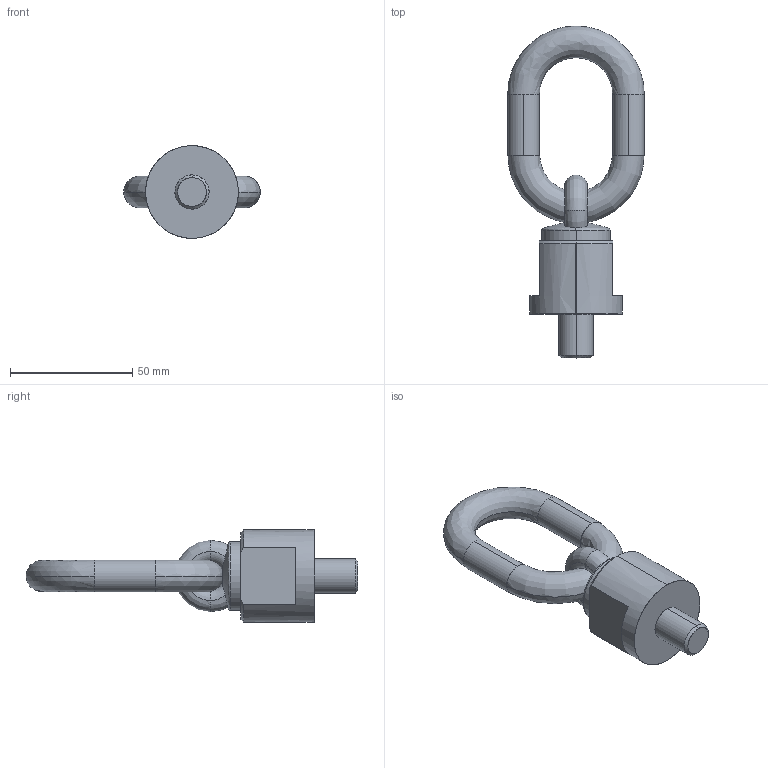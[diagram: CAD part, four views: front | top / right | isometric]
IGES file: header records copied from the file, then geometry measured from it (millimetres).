
Start section: START RECORD GO HERE.
Global section: file name: C800X0071218.igs; native system: DASSAULT SYSTEMES CATIA V5 R20 - www.3ds.com; preprocessor: CATIA Version 5 Release 20 ; author: Utente; organization: NB04-ASUS; date: 20200412.223147; units: millimetre
Bounding box: 56 x 136 x 38 mm (x, y, z)
Surface area: 15107.7 mm2 (no closed solid volume)
Topology: 0 solids, 0 shells, 48 faces, 246 edges, 246 vertices
Faces by surface type: revolution 35, extrusion 13
